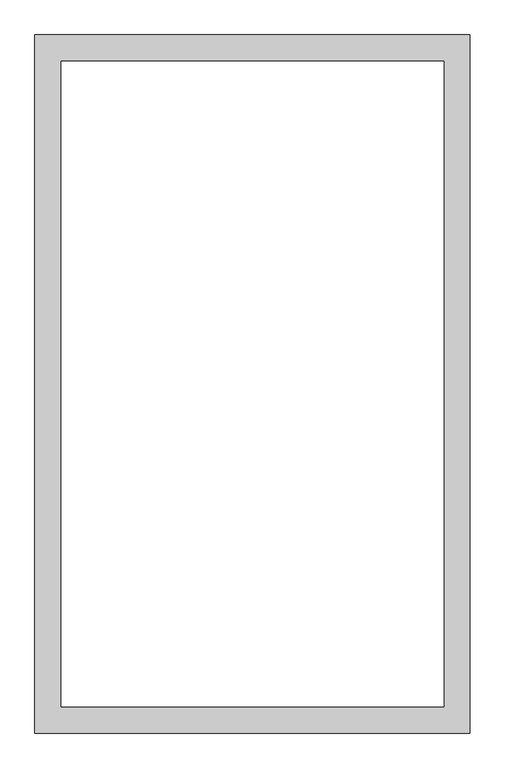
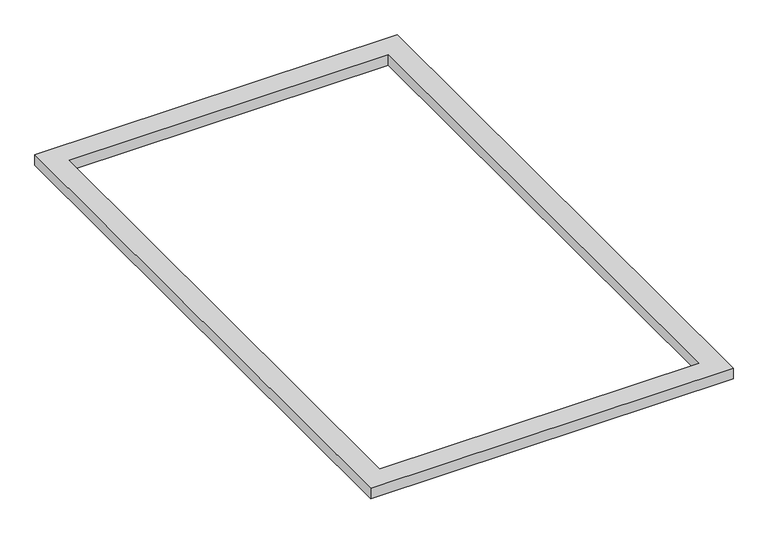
"""IFC4 building model written with IfcOpenShell, lengths in millimetres: proxy geometry, M_Obložení, okno, vnitřní, rovné : Rámeček obrázku."""

import ifcopenshell
import ifcopenshell.guid

model = None  # the IFC model being written
_history = None  # IfcOwnerHistory: only IFC2X3 demands one
_inside = {}  # id of a spatial element -> (the spatial element, [elements in it])
_under = {}  # id of a project, library or spatial element -> (it, [spatial elements below it])
_declared = {}  # id of a project -> (the project, [libraries it declares])
_typed = {}  # id of a type object -> (the type object, [elements of that type])
_made_of = {}  # id of a material, layer set ... -> (it, [elements and type objects made of it])


def new_model(schema):
    """Start an empty IFC model of exactly this schema.

    Asked for "IFC4X3", IfcOpenShell would pick the latest addendum, in which some entities
    have other attributes; the version numbers below select the first issue.
    IFC2X3 requires an IfcOwnerHistory on every rooted entity: one is made here for all.
    """
    global model, _history
    if schema == "IFC4X3":
        model = ifcopenshell.file(schema_version=(4, 3, 0, 0))
    else:
        model = ifcopenshell.file(schema=schema)
    _inside.clear()
    _under.clear()
    _declared.clear()
    _typed.clear()
    _made_of.clear()
    _history = None
    if model.schema == "IFC2X3":
        org = make("IfcOrganization", Name="unknown")
        user = make(
            "IfcPersonAndOrganization",
            ThePerson=make("IfcPerson", FamilyName="unknown"),
            TheOrganization=org,
        )
        app = make(
            "IfcApplication",
            ApplicationDeveloper=org,
            Version="unknown",
            ApplicationFullName="unknown",
            ApplicationIdentifier="unknown",
        )
        _history = make(
            "IfcOwnerHistory",
            OwningUser=user,
            OwningApplication=app,
            ChangeAction="ADDED",
            CreationDate=0,
        )
    return model


def make(cls, **values):
    """One entity of the class cls with the attributes given. An attribute that is None is left unset."""
    return model.create_entity(
        cls, **{name: value for name, value in values.items() if value is not None}
    )


def rooted(cls, **values):
    """An entity with a GlobalId (a new one), such as an element, a storey or a relation."""
    return make(cls, GlobalId=ifcopenshell.guid.new(), OwnerHistory=_history, **values)


def si_unit(unit_type, name, prefix=None):
    """IfcSIUnit, for example si_unit("LENGTHUNIT", "METRE", prefix="MILLI")."""
    return make("IfcSIUnit", UnitType=unit_type, Prefix=prefix, Name=name)


def assignment(units):
    """IfcUnitAssignment: the units of a project."""
    return None if units is None else make("IfcUnitAssignment", Units=units)


def point(xyz):
    """IfcCartesianPoint."""
    return None if xyz is None else make("IfcCartesianPoint", Coordinates=xyz)


def direction(xyz):
    """IfcDirection."""
    return None if xyz is None else make("IfcDirection", DirectionRatios=xyz)


def frame(location, z_axis=None, x_axis=None):
    """IfcAxis2Placement3D, a coordinate frame: its origin and axes. An axis left out is left unset."""
    return make(
        "IfcAxis2Placement3D",
        Location=point(location),
        Axis=direction(z_axis),
        RefDirection=direction(x_axis),
    )


def origin():
    """The frame at (0, 0, 0) with its axes left unset."""
    return frame((0.0, 0.0, 0.0))


def origin_with_axes():
    """The frame at (0, 0, 0) with the z axis (0, 0, 1) and the x axis (1, 0, 0) written out."""
    return frame((0.0, 0.0, 0.0), z_axis=(0.0, 0.0, 1.0), x_axis=(1.0, 0.0, 0.0))


def place(relative_to, where):
    """IfcLocalPlacement: puts the frame where relative to a parent placement (None: the world)."""
    return make(
        "IfcLocalPlacement", PlacementRelTo=relative_to, RelativePlacement=where
    )


def context(
    kind, dimensions, precision=None, world=None, true_north=None, identifier=None
):
    """IfcGeometricRepresentationContext, for example the 3D "Model" context."""
    return make(
        "IfcGeometricRepresentationContext",
        ContextIdentifier=identifier,
        ContextType=kind,
        CoordinateSpaceDimension=dimensions,
        Precision=precision,
        WorldCoordinateSystem=world,
        TrueNorth=true_north,
    )


def project(units=None, contexts=None):
    """IfcProject with its units and contexts."""
    return rooted(
        "IfcProject",
        Name="project",
        RepresentationContexts=contexts,
        UnitsInContext=assignment(units),
    )


def spatial(cls, under=None, at=None, **own):
    """A site, building, storey or space (cls), placed at a placement, below another one or the project."""
    s = rooted(cls, ObjectPlacement=at, **own)
    if under is not None:
        _under.setdefault(under.id(), (under, []))[1].append(s)
    return s


def polyline(points):
    """IfcPolyline through the points."""
    return make("IfcPolyline", Points=[point(p) for p in points])


def outline(outer, holes=None, kind="AREA"):
    """IfcArbitraryClosedProfileDef: a profile drawn as a closed curve; with holes, ...WithVoids."""
    if holes is None:
        return make("IfcArbitraryClosedProfileDef", ProfileType=kind, OuterCurve=outer)
    return make(
        "IfcArbitraryProfileDefWithVoids",
        ProfileType=kind,
        OuterCurve=outer,
        InnerCurves=holes,
    )


def extrude(swept, where, along, depth):
    """IfcExtrudedAreaSolid: the profile swept, set in the frame where, extruded along a direction by depth."""
    return make(
        "IfcExtrudedAreaSolid",
        SweptArea=swept,
        Position=where,
        ExtrudedDirection=direction(along),
        Depth=depth,
    )


def shape(context_of_items, identifier, shape_type, items):
    """IfcShapeRepresentation: the items that make up one representation, for example the "Body"."""
    return make(
        "IfcShapeRepresentation",
        ContextOfItems=context_of_items,
        RepresentationIdentifier=identifier,
        RepresentationType=shape_type,
        Items=items,
    )


def source(mapping_origin, context_of_items, identifier, shape_type, items):
    """IfcRepresentationMap: a shape defined once, which mapped items show again and again."""
    return make(
        "IfcRepresentationMap",
        MappingOrigin=mapping_origin,
        MappedRepresentation=shape(context_of_items, identifier, shape_type, items),
    )


def transform(
    local_origin,
    x_axis=None,
    y_axis=None,
    z_axis=None,
    scale=None,
    scale2=None,
    scale3=None,
    uniform=True,
):
    """IfcCartesianTransformationOperator3D, or its non-uniform kind. x_axis, y_axis, z_axis: its Axis1, 2, 3."""
    if uniform:
        return make(
            "IfcCartesianTransformationOperator3D",
            Axis1=direction(x_axis),
            Axis2=direction(y_axis),
            LocalOrigin=point(local_origin),
            Scale=scale,
            Axis3=direction(z_axis),
        )
    return make(
        "IfcCartesianTransformationOperator3DnonUniform",
        Axis1=direction(x_axis),
        Axis2=direction(y_axis),
        LocalOrigin=point(local_origin),
        Scale=scale,
        Axis3=direction(z_axis),
        Scale2=scale2,
        Scale3=scale3,
    )


def mapped(mapping_source, mapping_target):
    """IfcMappedItem: shows the shape of a source again, moved by a transform."""
    return make(
        "IfcMappedItem", MappingSource=mapping_source, MappingTarget=mapping_target
    )


def made_of(thing, what):
    """Note that an element or type object is made of a material, layer set ...; save() writes the relation."""
    if what is not None:
        _made_of.setdefault(what.id(), (what, []))[1].append(thing)
    return thing


def element(
    cls,
    number,
    at=None,
    inside=None,
    cuts=None,
    type_object=None,
    material=None,
    context=None,
    identifier="Body",
    shape_type=None,
    held_by="IfcProductDefinitionShape",
    body=None,
    shapes=None,
    **own,
):
    """One element of the class cls, such as IfcWall. Its Tag is "e" and its number.

    at: its placement. inside: the storey or other place that contains it. cuts: it is an
    opening in that element (IfcRelVoidsElement). A single representation is given by context,
    identifier, shape_type and body (its items); several are given by shapes. held_by: the class
    of the entity that holds the representations. save() writes the other relations.
    """
    e = rooted(cls, Tag="e%d" % number, ObjectPlacement=at, **own)
    if body is not None:
        shapes = [shape(context, identifier, shape_type, body)]
    if shapes is not None:
        e.Representation = make(held_by, Representations=shapes)
    if inside is not None:
        _inside.setdefault(inside.id(), (inside, []))[1].append(e)
    if cuts is not None:
        rooted(
            "IfcRelVoidsElement", RelatingBuildingElement=cuts, RelatedOpeningElement=e
        )
    if type_object is not None:
        _typed.setdefault(type_object.id(), (type_object, []))[1].append(e)
    return made_of(e, material)


def aggregate(whole, parts):
    """IfcRelAggregates: a whole, such as a stair, and the parts it consists of."""
    return rooted("IfcRelAggregates", RelatingObject=whole, RelatedObjects=parts)


def save(model, path):
    """Write the relations noted so far, then the file.

    IfcRelAggregates (storeys below a building ...), IfcRelContainedInSpatialStructure (elements
    in a storey), IfcRelDefinesByType, IfcRelAssociatesMaterial and IfcRelDeclares: one each for
    every whole, place, type object, material and project.
    """
    for whole, parts in _under.values():
        aggregate(whole, parts)
    for where, things in _inside.values():
        rooted(
            "IfcRelContainedInSpatialStructure",
            RelatedElements=things,
            RelatingStructure=where,
        )
    for kind, things in _typed.values():
        rooted("IfcRelDefinesByType", RelatedObjects=things, RelatingType=kind)
    for what, things in _made_of.values():
        rooted("IfcRelAssociatesMaterial", RelatedObjects=things, RelatingMaterial=what)
    for by, libraries in _declared.values():
        rooted("IfcRelDeclares", RelatingContext=by, RelatedDefinitions=libraries)
    model.write(path)


def generic_models_07578a54(model_context):
    return source(origin(), model_context, "Body", "SweptSolid", [
        extrude(outline(polyline([(497.3, 47.3), (497.3, -1547.3), (-497.3, -1547.3), (-497.3, 47.3), (497.3, 47.3)]), holes=[polyline([(437.3, -12.7), (-437.3, -12.7), (-437.3, -1487.3), (437.3, -1487.3), (437.3, -12.7)])]), origin_with_axes(), (0.0, 0.0, 1.0), 30.0),
    ])


if __name__ == "__main__":
    model = new_model("IFC4")
    model_context = context("Model", 3, world=origin())
    ifc_project = project(units=[si_unit("LENGTHUNIT", "METRE", prefix="MILLI")], contexts=[model_context])
    site = spatial("IfcSite", under=ifc_project)
    building = spatial("IfcBuilding", under=site)
    placement = place(None, origin())
    generic_models_shape = generic_models_07578a54(model_context)
    element("IfcBuildingElementProxy", 1, Name="M_Obložení, okno, vnitřní, rovné : Rámeček obrázku", ObjectType="M_Obložení, okno, vnitřní, rovné : Rámeček obrázku", at=placement, inside=building, context=model_context, shape_type="MappedRepresentation", body=[
        mapped(generic_models_shape, transform((0.0, 0.0, 0.0), x_axis=(1.0, 0.0, 0.0), y_axis=(0.0, 1.0, 0.0), z_axis=(0.0, 0.0, 1.0))),
    ])
    save(model, "model.ifc")
